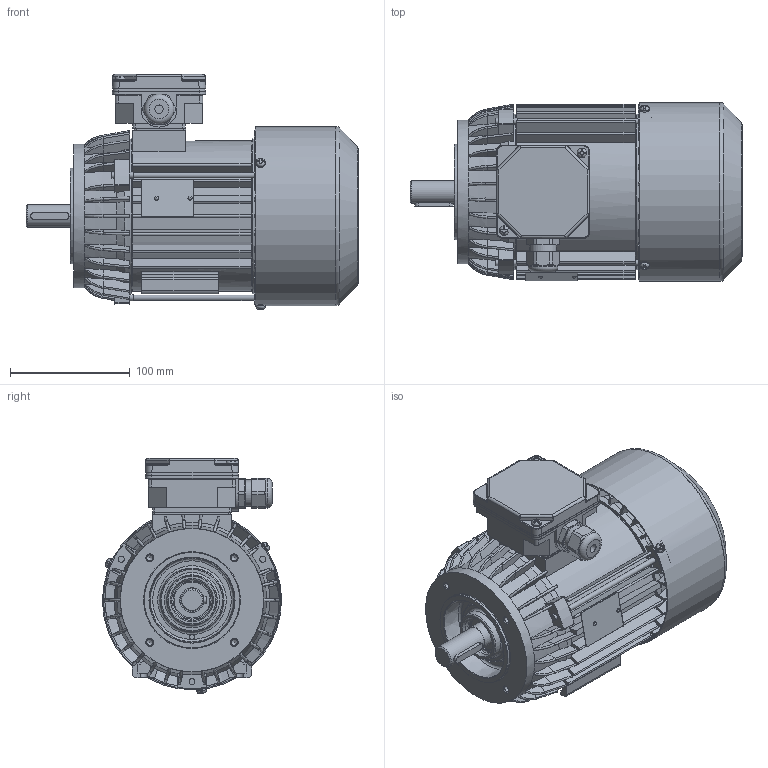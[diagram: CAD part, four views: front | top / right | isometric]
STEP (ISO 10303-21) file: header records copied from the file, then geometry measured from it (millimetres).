
FILE_DESCRIPTION(/* description */ ('Unknown'),/* implementation_level */ '2;1');
FILE_NAME(/* name */ 'SKh80-2B2',/* time_stamp */ '2019-02-13T11:37:30+01:00',/* author */ ('Klaudiusz Szlosek'),/* organization */ ('BESEL S.A.'),/* preprocessor_version */ 'ST-DEVELOPER v16.7',/* originating_system */ 'DEX',/* authorisation */ $);
FILE_SCHEMA (('AUTOMOTIVE_DESIGN {1 0 10303 214 3 1 1}'));
Products named in the file (1): Czêœæ6
Bounding box: 277.78 x 149.88 x 196.68 mm (x, y, z)
Volume: 789978.6 mm3; surface area: 495409.7 mm2
Topology: 3 solids, 3 shells, 2599 faces, 7428 edges, 4833 vertices
Faces by surface type: plane 1244, cylinder 760, bspline 244, torus 189, cone 142, sphere 20
Full cylindrical faces by diameter (mm): 2 x2, 2.4 x2, 3.7 x8, 4 x5, 4.5 x1, 4.6 x3, 4.8 x2, 5 x12, 5.5 x3, 7 x1, 8 x9, 18.998 x1, 19.298 x1, 19.498 x1, 19.898 x1, 20.298 x2, 20.398 x2, 20.4 x2, 22.3 x1, 25 x1, 25.497 x1, 25.997 x2, 26.097 x1, 26.997 x1, 28.799 x4, 30 x1, 34 x1, 38.198 x4, 42 x2, 47 x3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
Entity records: 110169 total; most frequent: CARTESIAN_POINT 27343, ORIENTED_EDGE 14110, DIRECTION 12642, EDGE_CURVE 7055, VERTEX_POINT 4684, AXIS2_PLACEMENT_3D 4612, LINE 3418, VECTOR 3418
